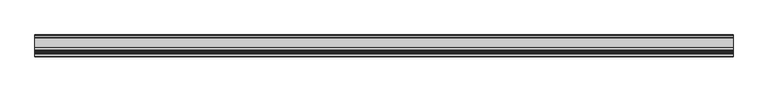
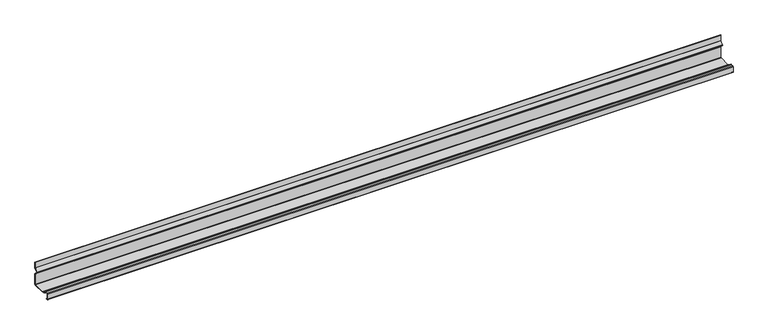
"""IFC4 building model written with IfcOpenShell, lengths in millimetres: plate geometry, HIANSA - H20.F09.007-CHAPA PERFILADA FACHADA HORIZONTAL - BANDEJA 130.600 - Panel de Muro Cortina : -."""

from ifc_helpers import new_model, si_unit, point, frame, frame_2d, origin, place, context, project, spatial, polyline, circle_curve, trimmed, segment, composite_curve, outline, extrude, source, transform, mapped, element, save


def plate_889892ed(model_context):
    return source(origin(), model_context, "Body", "SweptSolid", [
        extrude(outline(composite_curve([segment(polyline([(-1.0, 111.0772444), (-1.0, 147.0), (0.0, 147.0), (0.0, 111.0772444)]), True, "CONTINUOUS"), segment(trimmed(circle_curve(frame_2d((-2.2, 111.0772444)), 2.2), [point((0.0, 111.0772444))], [point((-0.597336, 109.5701054))], False, "CARTESIAN"), True, "CONTINUOUS"), segment(polyline([(-0.597336, 109.5701054), (-17.0664263, 92.0571777)]), True, "CONTINUOUS"), segment(trimmed(circle_curve(frame_2d((-15.7551558, 90.8240639)), 1.8), [point((-17.0664263, 92.0571777))], [point((-17.0664263, 89.5909501))], True, "CARTESIAN"), True, "CONTINUOUS"), segment(polyline([(-17.0664263, 89.5909501), (-0.597336, 72.0780224)]), True, "CONTINUOUS"), segment(trimmed(circle_curve(frame_2d((-2.2, 70.5708833)), 2.2), [point((-0.597336, 72.0780224))], [point((0.0, 70.5708833))], False, "CARTESIAN"), True, "CONTINUOUS"), segment(polyline([(0.0, 70.5708833), (0.0, 4.2)]), True, "CONTINUOUS"), segment(trimmed(circle_curve(frame_2d((-4.2, 4.2)), 4.2), [point((0.0, 4.2))], [point((-4.2, 0.0))], False, "CARTESIAN"), True, "CONTINUOUS"), segment(polyline([(-4.2, 0.0), (-76.198023, 0.0), (-89.7150105, 7.6096135), (-95.12384, 5.9673707), (-103.1910564, 10.0755652), (-103.519064, 11.3011429), (-104.0832351, 13.0775782), (-105.5433173, 16.5957005), (-106.8935432, 18.7164568), (-109.0433326, 20.7025242), (-110.1843731, 21.3325863), (-111.7315524, 21.6899245), (-113.8299892, 21.7042072), (-127.2, 21.7042072)]), True, "CONTINUOUS"), segment(trimmed(circle_curve(frame_2d((-127.2, 18.9042072)), 2.8), [point((-127.2, 21.7042072))], [point((-130.0, 18.9042072))], True, "CARTESIAN"), True, "CONTINUOUS"), segment(polyline([(-130.0, 18.9042072), (-130.0, -14.5998771)]), True, "CONTINUOUS"), segment(trimmed(circle_curve(frame_2d((-127.2, -14.5998771)), 2.8), [point((-130.0, -14.5998771))], [point((-127.2, -17.3998771))], True, "CARTESIAN"), True, "CONTINUOUS"), segment(polyline([(-127.2, -17.3998771), (-120.6028106, -17.3998771), (-120.6028106, -18.3998771), (-127.2, -18.3998771)]), True, "CONTINUOUS"), segment(trimmed(circle_curve(frame_2d((-127.2, -14.5998771)), 3.8), [point((-127.2, -18.3998771))], [point((-131.0, -14.5998771))], False, "CARTESIAN"), True, "CONTINUOUS"), segment(polyline([(-131.0, -14.5998771), (-131.0, 18.9042072)]), True, "CONTINUOUS"), segment(trimmed(circle_curve(frame_2d((-127.2, 18.9042072)), 3.8), [point((-131.0, 18.9042072))], [point((-127.2, 22.7042072))], False, "CARTESIAN"), True, "CONTINUOUS"), segment(polyline([(-127.2, 22.7042072), (-113.826586, 22.7042072), (-111.6142146, 22.689149), (-109.8232529, 22.2755066), (-108.4538074, 21.5193234), (-106.1196712, 19.3629486), (-104.6530492, 17.0593725), (-103.1431498, 13.4212139), (-102.2915341, 10.7396866), (-95.0289638, 7.0412546), (-89.5967319, 8.6906029), (-75.9358826, 1.0), (-4.2, 1.0)]), True, "CONTINUOUS"), segment(trimmed(circle_curve(frame_2d((-4.2, 4.2)), 3.2), [point((-4.2, 1.0))], [point((-1.0, 4.2))], True, "CARTESIAN"), True, "CONTINUOUS"), segment(polyline([(-1.0, 4.2), (-1.0, 70.5708833)]), True, "CONTINUOUS"), segment(trimmed(circle_curve(frame_2d((-2.2, 70.5708833)), 1.2), [point((-1.0, 70.5708833))], [point((-1.3258197, 71.3929592))], True, "CARTESIAN"), True, "CONTINUOUS"), segment(polyline([(-1.3258197, 71.3929592), (-17.7949099, 88.9058869)]), True, "CONTINUOUS"), segment(trimmed(circle_curve(frame_2d((-15.7551558, 90.8240639)), 2.8), [point((-17.7949099, 88.9058869))], [point((-17.7949099, 92.7422409))], False, "CARTESIAN"), True, "CONTINUOUS"), segment(polyline([(-17.7949099, 92.7422409), (-1.3258197, 110.2551686)]), True, "CONTINUOUS"), segment(trimmed(circle_curve(frame_2d((-2.2, 111.0772444)), 1.2), [point((-1.3258197, 110.2551686))], [point((-1.0, 111.0772444))], True, "CARTESIAN"), True, "CONTINUOUS")], self_intersect=False)), frame((-2103.5, 0.0, 0.0), z_axis=(1.0, 0.0, 0.0), x_axis=(0.0, 1.0, 0.0)), (0.0, 0.0, 1.0), 4207.0),
    ])


if __name__ == "__main__":
    model = new_model("IFC4")
    model_context = context("Model", 3, world=origin())
    ifc_project = project(units=[si_unit("LENGTHUNIT", "METRE", prefix="MILLI")], contexts=[model_context])
    site = spatial("IfcSite", under=ifc_project)
    building = spatial("IfcBuilding", under=site)
    placement = place(None, origin())
    plate_shape = plate_889892ed(model_context)
    element("IfcPlate", 1, ObjectType="HIANSA - H20.F09.007-CHAPA PERFILADA FACHADA HORIZONTAL - BANDEJA 130.600 - Panel de Muro Cortina : -", at=placement, inside=building, context=model_context, shape_type="MappedRepresentation", body=[
        mapped(plate_shape, transform((0.0, 0.0, 0.0), x_axis=(1.0, 0.0, 0.0), y_axis=(0.0, 1.0, 0.0), z_axis=(0.0, 0.0, 1.0))),
    ])
    save(model, "model.ifc")
